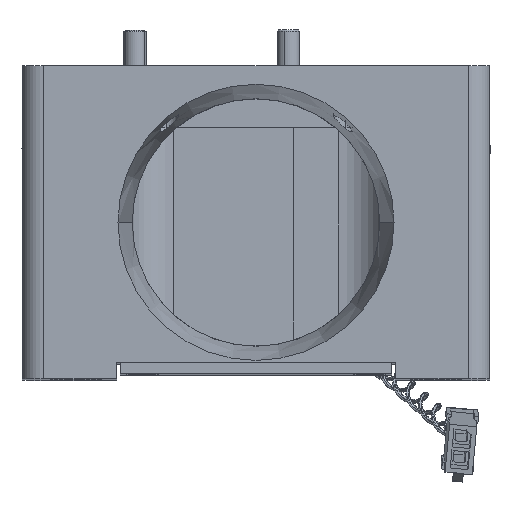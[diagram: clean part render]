
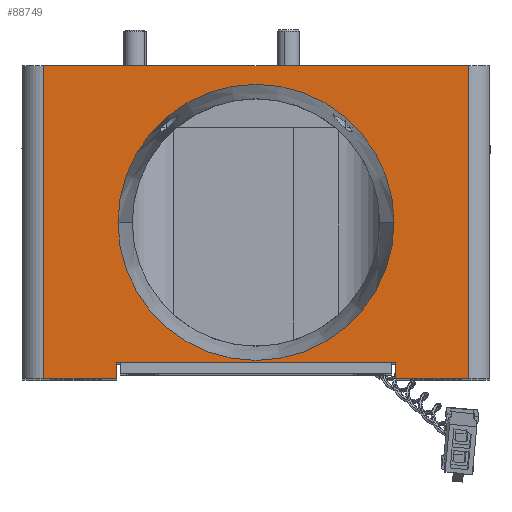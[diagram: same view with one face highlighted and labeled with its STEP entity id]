
A CAD part, top view. The second image highlights one B-rep face of the part: STEP entity #88749.
In plain terms, the highlighted planar face has unit normal (0, 0, 1).
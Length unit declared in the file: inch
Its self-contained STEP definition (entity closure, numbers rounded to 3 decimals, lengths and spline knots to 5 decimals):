
#458 = CARTESIAN_POINT ( 'NONE',  ( 0.80968, -0.59465, -2.64422 ) ) ;
#574 = CARTESIAN_POINT ( 'NONE',  ( 1.21468, -0.68465, -2.64422 ) ) ;
#5458 = CARTESIAN_POINT ( 'NONE',  ( -1.26532, -0.68465, -2.64422 ) ) ;
#5462 = LINE ( 'NONE', #5464, #76652 ) ;
#5464 = CARTESIAN_POINT ( 'NONE',  ( 0.80968, -0.68465, -2.64422 ) ) ;
#5472 = LINE ( 'NONE', #5458, #76650 ) ;
#5473 = DIRECTION ( 'NONE',  ( 0., 1., 0. ) ) ;
#5481 = DIRECTION ( 'NONE',  ( 1., 0., 0. ) ) ;
#6720 = CARTESIAN_POINT ( 'NONE',  ( 0.03468, 0.18535, -2.64422 ) ) ;
#6721 = DIRECTION ( 'NONE',  ( 0., 0., -1. ) ) ;
#6722 = DIRECTION ( 'NONE',  ( -1., 0., 0. ) ) ;
#7438 = AXIS2_PLACEMENT_3D ( 'NONE', #6720, #6721, #6722 ) ;
#7439 = CIRCLE ( 'NONE', #7438, 0.76685 ) ;
#7447 = VECTOR ( 'NONE', #75005, 39.37008 ) ;
#7458 = VECTOR ( 'NONE', #75028, 39.37008 ) ;
#7499 = VECTOR ( 'NONE', #75176, 39.37008 ) ;
#7501 = VECTOR ( 'NONE', #75182, 39.37008 ) ;
#21238 = VERTEX_POINT ( 'NONE', #21453 ) ;
#21336 = VERTEX_POINT ( 'NONE', #21551 ) ;
#21453 = CARTESIAN_POINT ( 'NONE',  ( -0.74032, -0.59465, -2.64422 ) ) ;
#21551 = CARTESIAN_POINT ( 'NONE',  ( 0.80968, -0.68465, -2.64422 ) ) ;
#27898 = EDGE_CURVE ( 'NONE', #21336, #77388, #5462, .T. ) ;
#27901 = EDGE_CURVE ( 'NONE', #76852, #76853, #5472, .T. ) ;
#28218 = EDGE_CURVE ( 'NONE', #47162, #47050, #7439, .T. ) ;
#28227 = EDGE_CURVE ( 'NONE', #47242, #76851, #74998, .T. ) ;
#28234 = EDGE_CURVE ( 'NONE', #21238, #76853, #75025, .T. ) ;
#28269 = EDGE_CURVE ( 'NONE', #77450, #47242, #75167, .T. ) ;
#28271 = EDGE_CURVE ( 'NONE', #21336, #77450, #75168, .T. ) ;
#28336 = EDGE_CURVE ( 'NONE', #76851, #76852, #75478, .T. ) ;
#28345 = EDGE_CURVE ( 'NONE', #77388, #21238, #75504, .T. ) ;
#32830 = CARTESIAN_POINT ( 'NONE',  ( 0.80153, 0.18535, -2.64422 ) ) ;
#32942 = CARTESIAN_POINT ( 'NONE',  ( -0.73217, 0.18535, -2.64422 ) ) ;
#33022 = CARTESIAN_POINT ( 'NONE',  ( 1.21468, 1.05535, -2.64422 ) ) ;
#33756 = ORIENTED_EDGE ( 'NONE', *, *, #28227, .T. ) ;
#33758 = ORIENTED_EDGE ( 'NONE', *, *, #28336, .T. ) ;
#33759 = ORIENTED_EDGE ( 'NONE', *, *, #27901, .T. ) ;
#33760 = ORIENTED_EDGE ( 'NONE', *, *, #28234, .F. ) ;
#33762 = ORIENTED_EDGE ( 'NONE', *, *, #28345, .F. ) ;
#33763 = ORIENTED_EDGE ( 'NONE', *, *, #27898, .F. ) ;
#33764 = ORIENTED_EDGE ( 'NONE', *, *, #28271, .T. ) ;
#33766 = ORIENTED_EDGE ( 'NONE', *, *, #28269, .T. ) ;
#33767 = ORIENTED_EDGE ( 'NONE', *, *, #69216, .T. ) ;
#33768 = ORIENTED_EDGE ( 'NONE', *, *, #28218, .T. ) ;
#34593 = CIRCLE ( 'NONE', #34596, 0.76685 ) ;
#34596 = AXIS2_PLACEMENT_3D ( 'NONE', #64273, #64275, #64277 ) ;
#47050 = VERTEX_POINT ( 'NONE', #32830 ) ;
#47162 = VERTEX_POINT ( 'NONE', #32942 ) ;
#47242 = VERTEX_POINT ( 'NONE', #33022 ) ;
#59570 = AXIS2_PLACEMENT_3D ( 'NONE', #93106, #93107, #93109 ) ;
#64273 = CARTESIAN_POINT ( 'NONE',  ( 0.03468, 0.18535, -2.64422 ) ) ;
#64275 = DIRECTION ( 'NONE',  ( 0., 0., -1. ) ) ;
#64277 = DIRECTION ( 'NONE',  ( -1., 0., 0. ) ) ;
#69216 = EDGE_CURVE ( 'NONE', #47050, #47162, #34593, .T. ) ;
#74998 = LINE ( 'NONE', #75004, #7447 ) ;
#75004 = CARTESIAN_POINT ( 'NONE',  ( -1.26532, 1.05535, -2.64422 ) ) ;
#75005 = DIRECTION ( 'NONE',  ( -1., 0., 0. ) ) ;
#75025 = LINE ( 'NONE', #75027, #7458 ) ;
#75027 = CARTESIAN_POINT ( 'NONE',  ( -0.74032, -0.59465, -2.64422 ) ) ;
#75028 = DIRECTION ( 'NONE',  ( 0., -1., 0. ) ) ;
#75167 = LINE ( 'NONE', #75175, #7499 ) ;
#75168 = LINE ( 'NONE', #75181, #7501 ) ;
#75175 = CARTESIAN_POINT ( 'NONE',  ( 1.21468, -0.68465, -2.64422 ) ) ;
#75176 = DIRECTION ( 'NONE',  ( 0., 1., 0. ) ) ;
#75181 = CARTESIAN_POINT ( 'NONE',  ( -1.26532, -0.68465, -2.64422 ) ) ;
#75182 = DIRECTION ( 'NONE',  ( 1., 0., 0. ) ) ;
#75474 = CARTESIAN_POINT ( 'NONE',  ( -1.14532, -0.68465, -2.64422 ) ) ;
#75478 = LINE ( 'NONE', #75474, #92697 ) ;
#75482 = DIRECTION ( 'NONE',  ( 0., -1., 0. ) ) ;
#75504 = LINE ( 'NONE', #75510, #92712 ) ;
#75510 = CARTESIAN_POINT ( 'NONE',  ( -0.74032, -0.59465, -2.64422 ) ) ;
#75511 = DIRECTION ( 'NONE',  ( -1., 0., 0. ) ) ;
#76650 = VECTOR ( 'NONE', #5481, 39.37008 ) ;
#76652 = VECTOR ( 'NONE', #5473, 39.37008 ) ;
#76851 = VERTEX_POINT ( 'NONE', #89708 ) ;
#76852 = VERTEX_POINT ( 'NONE', #89710 ) ;
#76853 = VERTEX_POINT ( 'NONE', #89712 ) ;
#77388 = VERTEX_POINT ( 'NONE', #458 ) ;
#77450 = VERTEX_POINT ( 'NONE', #574 ) ;
#81197 = EDGE_LOOP ( 'NONE', ( #33767, #33768 ) ) ;
#81213 = EDGE_LOOP ( 'NONE', ( #33756, #33758, #33759, #33760, #33762, #33763, #33764, #33766 ) ) ;
#88749 = ADVANCED_FACE ( 'NONE', ( #93079, #93043 ), #93084, .T. ) ;
#89708 = CARTESIAN_POINT ( 'NONE',  ( -1.14532, 1.05535, -2.64422 ) ) ;
#89710 = CARTESIAN_POINT ( 'NONE',  ( -1.14532, -0.68465, -2.64422 ) ) ;
#89712 = CARTESIAN_POINT ( 'NONE',  ( -0.74032, -0.68465, -2.64422 ) ) ;
#92697 = VECTOR ( 'NONE', #75482, 39.37008 ) ;
#92712 = VECTOR ( 'NONE', #75511, 39.37008 ) ;
#93043 = FACE_BOUND ( 'NONE', #81197, .T. ) ;
#93079 = FACE_OUTER_BOUND ( 'NONE', #81213, .T. ) ;
#93084 = PLANE ( 'NONE',  #59570 ) ;
#93106 = CARTESIAN_POINT ( 'NONE',  ( -1.26532, -0.68465, -2.64422 ) ) ;
#93107 = DIRECTION ( 'NONE',  ( 0., 0., 1. ) ) ;
#93109 = DIRECTION ( 'NONE',  ( 1., 0., 0. ) ) ;
